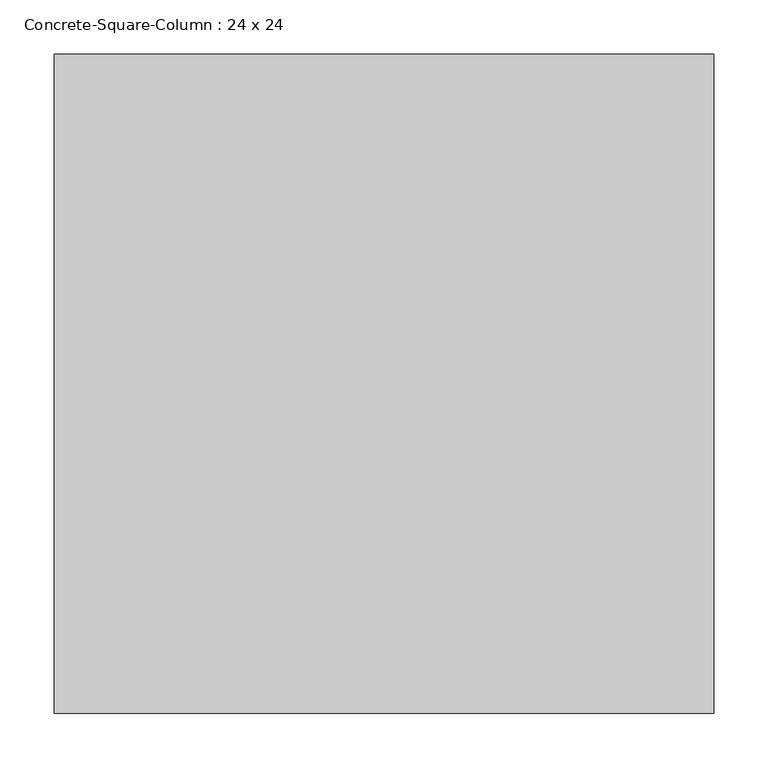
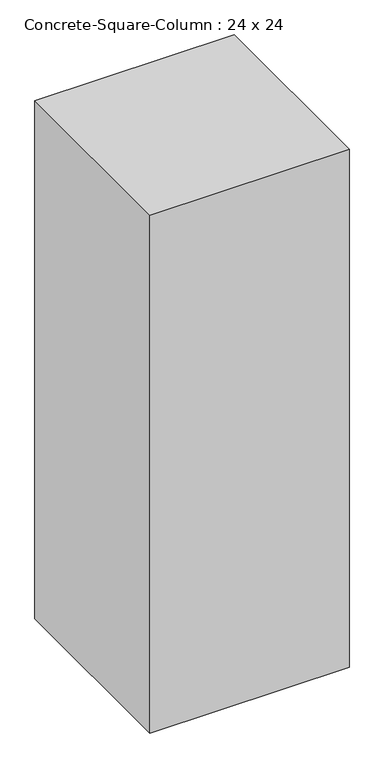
"""IFC4 building model written with IfcOpenShell, lengths in millimetres: column geometry, Concrete-Square-Column : 24 x 24."""

from ifc_helpers import new_model, si_unit, frame, origin, place, context, project, spatial, polyline, outline, extrude, source, transform, mapped, element, save


def concrete_square_column_24_x_24_c4942f5a(model_context):
    return source(origin(), model_context, "Body", "SweptSolid", [
        extrude(outline(polyline([(304.8, 304.8), (304.8, -304.8), (-304.8, -304.8), (-304.8, 304.8), (304.8, 304.8)])), frame((0.0, 0.0, 40690.8), z_axis=(0.0, 0.0, 1.0), x_axis=(1.0, 0.0, 0.0)), (0.0, 0.0, 1.0), 1676.4),
    ])


if __name__ == "__main__":
    model = new_model("IFC4")
    model_context = context("Model", 3, world=origin())
    ifc_project = project(units=[si_unit("LENGTHUNIT", "METRE", prefix="MILLI")], contexts=[model_context])
    site = spatial("IfcSite", under=ifc_project)
    building = spatial("IfcBuilding", under=site)
    placement = place(None, origin())
    concrete_square_column_24_x_24_shape = concrete_square_column_24_x_24_c4942f5a(model_context)
    element("IfcColumn", 1, ObjectType="Concrete-Square-Column : 24 x 24", at=placement, inside=building, context=model_context, shape_type="MappedRepresentation", body=[
        mapped(concrete_square_column_24_x_24_shape, transform((0.0, 0.0, 0.0), x_axis=(1.0, 0.0, 0.0), y_axis=(0.0, 1.0, 0.0), z_axis=(0.0, 0.0, 1.0))),
    ])
    save(model, "model.ifc")
